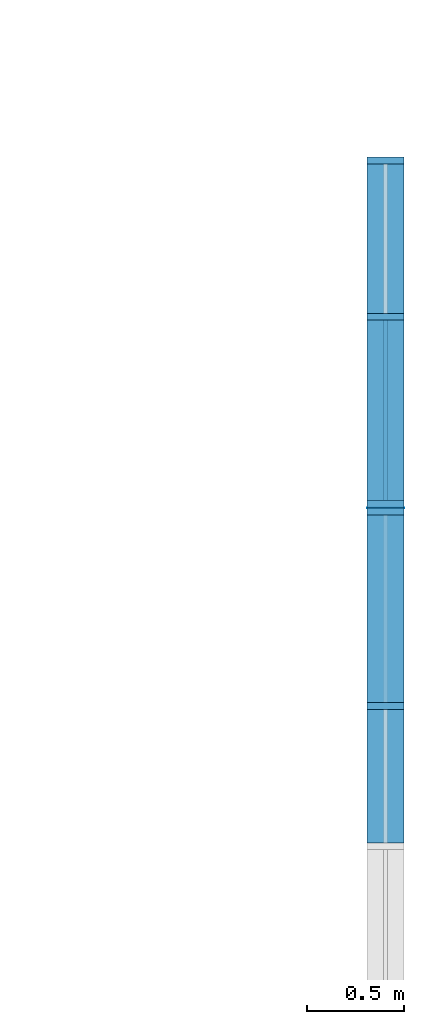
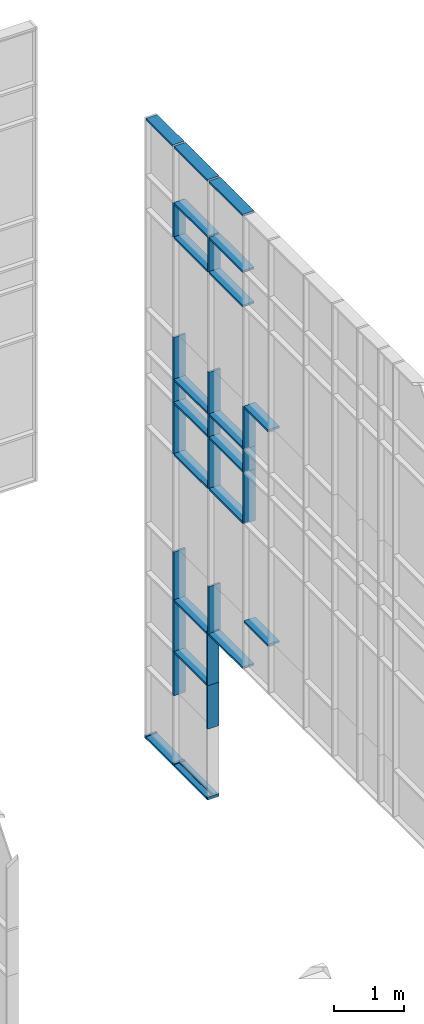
# One storey, part 17 of 73: 42 members, 1 element without a shape of its own.
"""IFC2X3 building model written with IfcOpenShell, lengths in millimetres."""

from ifc_helpers import new_model, entity, si_unit, converted_unit, derived_unit, direction, frame, origin, origin_2d_with_axis, place, context, subcontext, project, spatial, rectangle, extrude, source, transform, mapped, material, type_object, type_shapes, element, aggregate, save


model = new_model("IFC2X3")

# Units and contexts
model_context = context("Model", 3, precision=0.01, world=origin(), true_north=direction((6.12303176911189e-17, 1.0)))
body_context = subcontext(model_context, "Body", "Model", "MODEL_VIEW")
ifc_project = project(units=[si_unit("LENGTHUNIT", "METRE", prefix="MILLI"), si_unit("AREAUNIT", "SQUARE_METRE"), si_unit("VOLUMEUNIT", "CUBIC_METRE"), converted_unit("PLANEANGLEUNIT", "DEGREE", entity("IfcRatioMeasure", 0.0174532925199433), si_unit("PLANEANGLEUNIT", "RADIAN"), dimensions=[0, 0, 0, 0, 0, 0, 0]), si_unit("MASSUNIT", "GRAM", prefix="KILO"), derived_unit("MASSDENSITYUNIT", [(si_unit("MASSUNIT", "GRAM", prefix="KILO"), 1), (si_unit("LENGTHUNIT", "METRE"), -3)]), si_unit("TIMEUNIT", "SECOND"), si_unit("FREQUENCYUNIT", "HERTZ"), si_unit("THERMODYNAMICTEMPERATUREUNIT", "DEGREE_CELSIUS"), derived_unit("THERMALTRANSMITTANCEUNIT", [(si_unit("MASSUNIT", "GRAM", prefix="KILO"), 1), (si_unit("THERMODYNAMICTEMPERATUREUNIT", "KELVIN"), -1), (si_unit("TIMEUNIT", "SECOND"), -3)]), derived_unit("VOLUMETRICFLOWRATEUNIT", [(si_unit("LENGTHUNIT", "METRE"), 3), (si_unit("TIMEUNIT", "SECOND"), -1)]), si_unit("ELECTRICCURRENTUNIT", "AMPERE"), si_unit("ELECTRICVOLTAGEUNIT", "VOLT"), si_unit("POWERUNIT", "WATT"), si_unit("FORCEUNIT", "NEWTON", prefix="KILO"), si_unit("ILLUMINANCEUNIT", "LUX"), si_unit("LUMINOUSFLUXUNIT", "LUMEN"), si_unit("LUMINOUSINTENSITYUNIT", "CANDELA"), derived_unit("USERDEFINED", [(si_unit("MASSUNIT", "GRAM", prefix="KILO"), -1), (si_unit("LENGTHUNIT", "METRE"), -2), (si_unit("TIMEUNIT", "SECOND"), 3), (si_unit("LUMINOUSFLUXUNIT", "LUMEN"), 1)]), derived_unit("LINEARVELOCITYUNIT", [(si_unit("LENGTHUNIT", "METRE"), 1), (si_unit("TIMEUNIT", "SECOND"), -1)]), si_unit("PRESSUREUNIT", "PASCAL"), derived_unit("USERDEFINED", [(si_unit("LENGTHUNIT", "METRE"), -2), (si_unit("MASSUNIT", "GRAM", prefix="KILO"), 1), (si_unit("TIMEUNIT", "SECOND"), -2)])], contexts=[model_context])

# Site, building, storey
site_placement = place(None, frame((-151.875543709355, 2715.0, 0.0)))
site = spatial("IfcSite", under=ifc_project, at=site_placement, Name="Surface", CompositionType="ELEMENT")
building_placement = place(site_placement, origin())
building = spatial("IfcBuilding", under=site, at=building_placement, CompositionType="ELEMENT")
storey_placement = place(building_placement, frame((0.0, 0.0, 6730.43000000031)))
storey = spatial("IfcBuildingStorey", under=building, at=storey_placement, Name="3 korrus", CompositionType="ELEMENT", Elevation=6730.43000000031)

# Curtain wall, members
curtain_wall_type = type_object("IfcCurtainWallType", Name="Curtain Wall:Klaasfassaad", PredefinedType="NOTDEFINED")
curtain_wall_placement = place(storey_placement, frame((0.0, 0.0, -6730.43000000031)))
curtain_wall = element("IfcCurtainWall", 1, at=curtain_wall_placement, inside=storey, type_object=curtain_wall_type, Name="Curtain Wall:Klaasfassaad", ObjectType="Curtain Wall:Klaasfassaad")
ifc_material_1 = material(Name="Steel/Aluminium")
member_type_1 = type_object("IfcMemberType", Name="35 x 190mm", PredefinedType="MEMBER")
shared_shape_1 = source(origin(), body_context, "Body", "SweptSolid", [
    extrude(rectangle(XDim=190.0, YDim=35.0, at=origin_2d_with_axis()), frame((-17.5, 0.0, -767.50000000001), z_axis=(0.0, 0.0, 1.0), x_axis=(0.0, -1.0, 0.0)), (0.0, 0.0, 1.0), 767.500000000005),
])
type_shapes(member_type_1, [shared_shape_1])
member_1_placement = place(storey_placement, frame((38701.6162681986, 23775.5004565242, 5074.47692901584), z_axis=(0.0, 1.0, 0.0), x_axis=(0.0, 0.0, 1.0)))
member_1 = element("IfcMember", 2, at=member_1_placement, type_object=member_type_1, material=ifc_material_1, Name="Rectangular Mullion:35 x 190mm", ObjectType="35 x 190mm", context=body_context, shape_type="MappedRepresentation", body=[
    mapped(shared_shape_1, transform((0.0, 0.0, 0.0), scale=1.0)),
])
member_type_2 = type_object("IfcMemberType", Name="35 x 190mm", PredefinedType="MEMBER")
shared_shape_2 = source(origin(), body_context, "Body", "SweptSolid", [
    extrude(rectangle(XDim=190.0, YDim=35.0, at=origin_2d_with_axis()), frame((-17.5, 0.0, -50.5722699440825), z_axis=(0.0, 0.0, 1.0), x_axis=(0.0, -1.0, 0.0)), (0.0, 0.0, 1.0), 50.5722699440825),
])
type_shapes(member_type_2, [shared_shape_2])
member_2_placement = place(storey_placement, frame((38701.6162681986, 23810.5004565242, -5751.00225525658), z_axis=(0.0, 0.0, -1.0), x_axis=(0.0, 1.0, 0.0)))
member_2 = element("IfcMember", 3, at=member_2_placement, type_object=member_type_2, material=ifc_material_1, Name="Rectangular Mullion:35 x 190mm", ObjectType="35 x 190mm", context=body_context, shape_type="MappedRepresentation", body=[
    mapped(shared_shape_2, transform((0.0, 0.0, 0.0), scale=1.0)),
])
member_type_3 = type_object("IfcMemberType", Name="35 x 190mm", PredefinedType="MEMBER")
shared_shape_3 = source(origin(), body_context, "Body", "SweptSolid", [
    extrude(rectangle(XDim=190.000000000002, YDim=35.0, at=origin_2d_with_axis()), frame((-17.5, 0.0, -927.500026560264), z_axis=(0.0, 0.0, 1.0), x_axis=(0.0, -1.0, 0.0)), (0.0, 0.0, 1.0), 927.500026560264),
])
type_shapes(member_type_3, [shared_shape_3])
member_3_placement = place(storey_placement, frame((38701.6162681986, 22045.5004299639, -5751.00225525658), z_axis=(0.0, -1.0, 0.0), x_axis=(0.0, 0.0, -1.0)))
member_3 = element("IfcMember", 4, at=member_3_placement, type_object=member_type_3, material=ifc_material_1, Name="Rectangular Mullion:35 x 190mm", ObjectType="35 x 190mm", context=body_context, shape_type="MappedRepresentation", body=[
    mapped(shared_shape_3, transform((0.0, 0.0, 0.0), scale=1.0)),
])
member_type_4 = type_object("IfcMemberType", Name="35 x 190mm", PredefinedType="MEMBER")
shared_shape_4 = source(origin(), body_context, "Body", "SweptSolid", [
    extrude(rectangle(XDim=190.0, YDim=35.0, at=origin_2d_with_axis()), frame((-17.5, 0.0, -935.0), z_axis=(0.0, 0.0, 1.0), x_axis=(0.0, -1.0, 0.0)), (0.0, 0.0, 1.0), 935.0),
])
type_shapes(member_type_4, [shared_shape_4])
member_4_placement = place(storey_placement, frame((38701.6162681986, 22010.5004299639, -2821.00226032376), z_axis=(0.0, 0.0, 1.0), x_axis=(0.0, -1.0, 0.0)))
member_4 = element("IfcMember", 5, at=member_4_placement, type_object=member_type_4, material=ifc_material_1, Name="Rectangular Mullion:35 x 190mm", ObjectType="35 x 190mm", context=body_context, shape_type="MappedRepresentation", body=[
    mapped(shared_shape_4, transform((0.0, 0.0, 0.0), scale=1.0)),
])
member_type_5 = type_object("IfcMemberType", Name="35 x 190mm", PredefinedType="MEMBER")
shared_shape_5 = source(origin(), body_context, "Body", "SweptSolid", [
    extrude(rectangle(XDim=190.0, YDim=35.0, at=origin_2d_with_axis()), frame((-17.5, 0.0, -965.0), z_axis=(0.0, 0.0, 1.0), x_axis=(0.0, -1.0, 0.0)), (0.0, 0.0, 1.0), 964.999999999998),
])
type_shapes(member_type_5, [shared_shape_5])
member_5_placement = place(storey_placement, frame((38701.6162681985, 21008.0004565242, -2856.00226032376), z_axis=(0.0, -1.0, 0.0), x_axis=(0.0, 0.0, -1.0)))
member_5 = element("IfcMember", 6, at=member_5_placement, type_object=member_type_5, material=ifc_material_1, Name="Rectangular Mullion:35 x 190mm", ObjectType="35 x 190mm", context=body_context, shape_type="MappedRepresentation", body=[
    mapped(shared_shape_5, transform((0.0, 0.0, 0.0), scale=1.0)),
])
member_type_6 = type_object("IfcMemberType", Name="35 x 190mm", PredefinedType="MEMBER")
shared_shape_6 = source(origin(), body_context, "Body", "SweptSolid", [
    extrude(rectangle(XDim=190.0, YDim=35.0, at=origin_2d_with_axis()), frame((-17.5, 0.0, -965.0), z_axis=(0.0, 0.0, 1.0), x_axis=(0.0, -1.0, 0.0)), (0.0, 0.0, 1.0), 964.999999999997),
])
type_shapes(member_type_6, [shared_shape_6])
member_6_placement = place(storey_placement, frame((38701.6162681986, 21973.0004565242, 5074.47692901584), z_axis=(0.0, 1.0, 0.0), x_axis=(0.0, 0.0, 1.0)))
member_6 = element("IfcMember", 7, at=member_6_placement, type_object=member_type_6, material=ifc_material_1, Name="Rectangular Mullion:35 x 190mm", ObjectType="35 x 190mm", context=body_context, shape_type="MappedRepresentation", body=[
    mapped(shared_shape_6, transform((0.0, 0.0, 0.0), scale=1.0)),
])
member_7_placement = place(storey_placement, frame((38701.6162681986, 22973.0004565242, 5074.47692901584), z_axis=(0.0, 1.0, 0.0), x_axis=(0.0, 0.0, 1.0)))
member_7 = element("IfcMember", 8, at=member_7_placement, type_object=member_type_6, material=ifc_material_1, Name="Rectangular Mullion:35 x 190mm", ObjectType="35 x 190mm", context=body_context, shape_type="MappedRepresentation", body=[
    mapped(shared_shape_6, transform((0.0, 0.0, 0.0), scale=1.0)),
])
member_type_7 = type_object("IfcMemberType", Name="35 x 190mm", PredefinedType="MEMBER")
shared_shape_7 = source(origin(), body_context, "Body", "SweptSolid", [
    extrude(rectangle(XDim=190.0, YDim=35.0, at=origin_2d_with_axis()), frame((-17.5, 0.0, -2.49997343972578), z_axis=(0.0, 0.0, 1.0), x_axis=(0.0, -1.0, 0.0)), (0.0, 0.0, 1.0), 2.49997343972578),
])
type_shapes(member_type_7, [shared_shape_7])
member_8_placement = place(storey_placement, frame((38701.6162681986, 22008.0004565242, -2856.00226032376), z_axis=(0.0, -1.0, 0.0), x_axis=(0.0, 0.0, -1.0)))
member_8 = element("IfcMember", 9, at=member_8_placement, type_object=member_type_7, material=ifc_material_1, Name="Rectangular Mullion:35 x 190mm", ObjectType="35 x 190mm", context=body_context, shape_type="MappedRepresentation", body=[
    mapped(shared_shape_7, transform((0.0, 0.0, 0.0), scale=1.0)),
])
member_type_8 = type_object("IfcMemberType", Name="35 x 190mm", PredefinedType="MEMBER")
shared_shape_8 = source(origin(), body_context, "Body", "SweptSolid", [
    extrude(rectangle(XDim=190.0, YDim=35.0, at=origin_2d_with_axis()), frame((-17.5, 0.0, -767.500000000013), z_axis=(0.0, 0.0, 1.0), x_axis=(0.0, -1.0, 0.0)), (0.0, 0.0, 1.0), 767.500000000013),
])
type_shapes(member_type_8, [shared_shape_8])
member_9_placement = place(storey_placement, frame((38701.6162681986, 23008.0004565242, -5751.00225525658), z_axis=(0.0, -1.0, 0.0), x_axis=(0.0, 0.0, -1.0)))
member_9 = element("IfcMember", 10, at=member_9_placement, type_object=member_type_8, material=ifc_material_1, Name="Rectangular Mullion:35 x 190mm", ObjectType="35 x 190mm", context=body_context, shape_type="MappedRepresentation", body=[
    mapped(shared_shape_8, transform((0.0, 0.0, 0.0), scale=1.0)),
])
member_type_9 = type_object("IfcMemberType", Name="35 x 190mm", PredefinedType="MEMBER")
shared_shape_9 = source(origin(), body_context, "Body", "SweptSolid", [
    extrude(rectangle(XDim=190.0, YDim=35.0, at=origin_2d_with_axis()), frame((-17.5, 0.0, -760.0), z_axis=(0.0, 0.0, 1.0), x_axis=(0.0, -1.0, 0.0)), (0.0, 0.0, 1.0), 760.0),
])
type_shapes(member_type_9, [shared_shape_9])
member_10_placement = place(storey_placement, frame((38701.6162681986, 22010.5004299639, -3756.00226032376), z_axis=(0.0, 0.0, 1.0), x_axis=(0.0, -1.0, 0.0)))
member_10 = element("IfcMember", 11, at=member_10_placement, type_object=member_type_9, material=ifc_material_1, Name="Rectangular Mullion:35 x 190mm", ObjectType="35 x 190mm", context=body_context, shape_type="MappedRepresentation", body=[
    mapped(shared_shape_9, transform((0.0, 0.0, 0.0), scale=1.0)),
])
member_type_10 = type_object("IfcMemberType", Name="35 x 190mm", PredefinedType="MEMBER")
shared_shape_10 = source(origin(), body_context, "Body", "SweptSolid", [
    extrude(rectangle(XDim=190.0, YDim=35.0, at=origin_2d_with_axis()), frame((0.0, 0.0, -850.159729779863), z_axis=(0.0, 0.0, 1.0), x_axis=(0.0, -1.0, 0.0)), (0.0, 0.0, 1.0), 850.159729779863),
])
type_shapes(member_type_10, [shared_shape_10])
member_11_placement = place(storey_placement, frame((38701.6162681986, 21990.5004565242, -2856.00226032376), z_axis=(0.0, 0.0, -1.0), x_axis=(0.0, 1.0, 0.0)))
member_11 = element("IfcMember", 12, at=member_11_placement, type_object=member_type_10, material=ifc_material_1, Name="Rectangular Mullion:35 x 190mm", ObjectType="35 x 190mm", context=body_context, shape_type="MappedRepresentation", body=[
    mapped(shared_shape_10, transform((0.0, 0.0, 0.0), scale=1.0)),
])
member_type_11 = type_object("IfcMemberType", Name="35 x 190mm", PredefinedType="MEMBER")
shared_shape_11 = source(origin(), body_context, "Body", "SweptSolid", [
    extrude(rectangle(XDim=190.0, YDim=35.0, at=origin_2d_with_axis()), frame((0.0, 0.0, -50.5722699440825), z_axis=(0.0, 0.0, 1.0), x_axis=(0.0, -1.0, 0.0)), (0.0, 0.0, 1.0), 50.5722699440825),
])
type_shapes(member_type_11, [shared_shape_11])
member_12_placement = place(storey_placement, frame((38701.6162681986, 22990.5004565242, -5751.00225525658), z_axis=(0.0, 0.0, -1.0), x_axis=(0.0, 1.0, 0.0)))
member_12 = element("IfcMember", 13, at=member_12_placement, type_object=member_type_11, material=ifc_material_1, Name="Rectangular Mullion:35 x 190mm", ObjectType="35 x 190mm", context=body_context, shape_type="MappedRepresentation", body=[
    mapped(shared_shape_11, transform((0.0, 0.0, 0.0), scale=1.0)),
])
member_type_12 = type_object("IfcMemberType", Name="35 x 190mm", PredefinedType="MEMBER")
shared_shape_12 = source(origin(), body_context, "Body", "SweptSolid", [
    extrude(rectangle(XDim=190.0, YDim=35.0, at=origin_2d_with_axis()), frame((0.0, 0.0, -965.0), z_axis=(0.0, 0.0, 1.0), x_axis=(0.0, -1.0, 0.0)), (0.0, 0.0, 1.0), 964.999999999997),
])
type_shapes(member_type_12, [shared_shape_12])
member_13_placement = place(storey_placement, frame((38701.6162681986, 21973.0004565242, 4074.47692901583), z_axis=(0.0, 1.0, 0.0), x_axis=(0.0, 0.0, 1.0)))
member_13 = element("IfcMember", 14, at=member_13_placement, type_object=member_type_12, material=ifc_material_1, Name="Rectangular Mullion:35 x 190mm", ObjectType="35 x 190mm", context=body_context, shape_type="MappedRepresentation", body=[
    mapped(shared_shape_12, transform((0.0, 0.0, 0.0), scale=1.0)),
])
member_14_placement = place(storey_placement, frame((38701.6162681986, 22973.0004565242, 4074.47692901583), z_axis=(0.0, 1.0, 0.0), x_axis=(0.0, 0.0, 1.0)))
member_14 = element("IfcMember", 15, at=member_14_placement, type_object=member_type_12, material=ifc_material_1, Name="Rectangular Mullion:35 x 190mm", ObjectType="35 x 190mm", context=body_context, shape_type="MappedRepresentation", body=[
    mapped(shared_shape_12, transform((0.0, 0.0, 0.0), scale=1.0)),
])
member_type_13 = type_object("IfcMemberType", Name="35 x 190mm", PredefinedType="MEMBER")
shared_shape_13 = source(origin(), body_context, "Body", "SweptSolid", [
    extrude(rectangle(XDim=190.0, YDim=35.0, at=origin_2d_with_axis()), frame((0.0, 0.0, -965.0), z_axis=(0.0, 0.0, 1.0), x_axis=(0.0, -1.0, 0.0)), (0.0, 0.0, 1.0), 964.999999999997),
])
type_shapes(member_type_13, [shared_shape_13])
member_15_placement = place(storey_placement, frame((38701.6162681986, 21973.0004565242, 3474.47692901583), z_axis=(0.0, 1.0, 0.0), x_axis=(0.0, 0.0, 1.0)))
member_15 = element("IfcMember", 16, at=member_15_placement, type_object=member_type_13, material=ifc_material_1, Name="Rectangular Mullion:35 x 190mm", ObjectType="35 x 190mm", context=body_context, shape_type="MappedRepresentation", body=[
    mapped(shared_shape_13, transform((0.0, 0.0, 0.0), scale=1.0)),
])
member_16_placement = place(storey_placement, frame((38701.6162681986, 22973.0004565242, 3474.47692901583), z_axis=(0.0, 1.0, 0.0), x_axis=(0.0, 0.0, 1.0)))
member_16 = element("IfcMember", 17, at=member_16_placement, type_object=member_type_13, material=ifc_material_1, Name="Rectangular Mullion:35 x 190mm", ObjectType="35 x 190mm", context=body_context, shape_type="MappedRepresentation", body=[
    mapped(shared_shape_13, transform((0.0, 0.0, 0.0), scale=1.0)),
])
member_type_14 = type_object("IfcMemberType", Name="35 x 190mm", PredefinedType="MEMBER")
shared_shape_14 = source(origin(), body_context, "Body", "SweptSolid", [
    extrude(rectangle(XDim=190.0, YDim=35.0, at=origin_2d_with_axis()), frame((0.0, 0.0, -965.0), z_axis=(0.0, 0.0, 1.0), x_axis=(0.0, -1.0, 0.0)), (0.0, 0.0, 1.0), 964.999999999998),
])
type_shapes(member_type_14, [shared_shape_14])
member_17_placement = place(storey_placement, frame((38701.6162681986, 21973.0004565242, 994.476929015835), z_axis=(0.0, 1.0, 0.0), x_axis=(0.0, 0.0, 1.0)))
member_17 = element("IfcMember", 18, at=member_17_placement, type_object=member_type_14, material=ifc_material_1, Name="Rectangular Mullion:35 x 190mm", ObjectType="35 x 190mm", context=body_context, shape_type="MappedRepresentation", body=[
    mapped(shared_shape_14, transform((0.0, 0.0, 0.0), scale=1.0)),
])
member_18_placement = place(storey_placement, frame((38701.6162681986, 22973.0004565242, 994.476929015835), z_axis=(0.0, 1.0, 0.0), x_axis=(0.0, 0.0, 1.0)))
member_18 = element("IfcMember", 19, at=member_18_placement, type_object=member_type_14, material=ifc_material_1, Name="Rectangular Mullion:35 x 190mm", ObjectType="35 x 190mm", context=body_context, shape_type="MappedRepresentation", body=[
    mapped(shared_shape_14, transform((0.0, 0.0, 0.0), scale=1.0)),
])
member_type_15 = type_object("IfcMemberType", Name="35 x 190mm", PredefinedType="MEMBER")
shared_shape_15 = source(origin(), body_context, "Body", "SweptSolid", [
    extrude(rectangle(XDim=190.0, YDim=35.0, at=origin_2d_with_axis()), frame((0.0, 0.0, -965.0), z_axis=(0.0, 0.0, 1.0), x_axis=(0.0, -1.0, 0.0)), (0.0, 0.0, 1.0), 964.999999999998),
])
type_shapes(member_type_15, [shared_shape_15])
member_19_placement = place(storey_placement, frame((38701.6162681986, 21973.0004565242, 594.476929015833), z_axis=(0.0, 1.0, 0.0), x_axis=(0.0, 0.0, 1.0)))
member_19 = element("IfcMember", 20, at=member_19_placement, type_object=member_type_15, material=ifc_material_1, Name="Rectangular Mullion:35 x 190mm", ObjectType="35 x 190mm", context=body_context, shape_type="MappedRepresentation", body=[
    mapped(shared_shape_15, transform((0.0, 0.0, 0.0), scale=1.0)),
])
member_20_placement = place(storey_placement, frame((38701.6162681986, 22973.0004565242, 594.476929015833), z_axis=(0.0, 1.0, 0.0), x_axis=(0.0, 0.0, 1.0)))
member_20 = element("IfcMember", 21, at=member_20_placement, type_object=member_type_15, material=ifc_material_1, Name="Rectangular Mullion:35 x 190mm", ObjectType="35 x 190mm", context=body_context, shape_type="MappedRepresentation", body=[
    mapped(shared_shape_15, transform((0.0, 0.0, 0.0), scale=1.0)),
])
member_type_16 = type_object("IfcMemberType", Name="35 x 190mm", PredefinedType="MEMBER")
shared_shape_16 = source(origin(), body_context, "Body", "SweptSolid", [
    extrude(rectangle(XDim=190.0, YDim=35.0, at=origin_2d_with_axis()), frame((0.0, 0.0, -965.0), z_axis=(0.0, 0.0, 1.0), x_axis=(0.0, -1.0, 0.0)), (0.0, 0.0, 1.0), 964.999999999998),
])
type_shapes(member_type_16, [shared_shape_16])
member_21_placement = place(storey_placement, frame((38701.6162681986, 21973.0004565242, -305.523070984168), z_axis=(0.0, 1.0, 0.0), x_axis=(0.0, 0.0, 1.0)))
member_21 = element("IfcMember", 22, at=member_21_placement, type_object=member_type_16, material=ifc_material_1, Name="Rectangular Mullion:35 x 190mm", ObjectType="35 x 190mm", context=body_context, shape_type="MappedRepresentation", body=[
    mapped(shared_shape_16, transform((0.0, 0.0, 0.0), scale=1.0)),
])
member_22_placement = place(storey_placement, frame((38701.6162681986, 22973.0004565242, -305.523070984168), z_axis=(0.0, 1.0, 0.0), x_axis=(0.0, 0.0, 1.0)))
member_22 = element("IfcMember", 23, at=member_22_placement, type_object=member_type_16, material=ifc_material_1, Name="Rectangular Mullion:35 x 190mm", ObjectType="35 x 190mm", context=body_context, shape_type="MappedRepresentation", body=[
    mapped(shared_shape_16, transform((0.0, 0.0, 0.0), scale=1.0)),
])
member_type_17 = type_object("IfcMemberType", Name="35 x 190mm", PredefinedType="MEMBER")
shared_shape_17 = source(origin(), body_context, "Body", "SweptSolid", [
    extrude(rectangle(XDim=190.0, YDim=35.0, at=origin_2d_with_axis()), frame((0.0, 0.0, -927.500026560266), z_axis=(0.0, 0.0, 1.0), x_axis=(0.0, -1.0, 0.0)), (0.0, 0.0, 1.0), 927.500026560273),
])
type_shapes(member_type_17, [shared_shape_17])
member_23_placement = place(storey_placement, frame((38701.6162681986, 22973.0004565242, -2856.00226032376), z_axis=(0.0, 1.0, 0.0), x_axis=(0.0, 0.0, 1.0)))
member_23 = element("IfcMember", 24, at=member_23_placement, type_object=member_type_17, material=ifc_material_1, Name="Rectangular Mullion:35 x 190mm", ObjectType="35 x 190mm", context=body_context, shape_type="MappedRepresentation", body=[
    mapped(shared_shape_17, transform((0.0, 0.0, 0.0), scale=1.0)),
])
member_type_18 = type_object("IfcMemberType", Name="35 x 190mm", PredefinedType="MEMBER")
shared_shape_18 = source(origin(), body_context, "Body", "SweptSolid", [
    extrude(rectangle(XDim=190.0, YDim=35.0, at=origin_2d_with_axis()), frame((0.0, 0.0, -927.500026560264), z_axis=(0.0, 0.0, 1.0), x_axis=(0.0, -1.0, 0.0)), (0.0, 0.0, 1.0), 927.500026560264),
])
type_shapes(member_type_18, [shared_shape_18])
member_24_placement = place(storey_placement, frame((38701.6162681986, 22973.0004565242, -3756.00226032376), z_axis=(0.0, 1.0, 0.0), x_axis=(0.0, 0.0, 1.0)))
member_24 = element("IfcMember", 25, at=member_24_placement, type_object=member_type_18, material=ifc_material_1, Name="Rectangular Mullion:35 x 190mm", ObjectType="35 x 190mm", context=body_context, shape_type="MappedRepresentation", body=[
    mapped(shared_shape_18, transform((0.0, 0.0, 0.0), scale=1.0)),
])
member_type_19 = type_object("IfcMemberType", Name="35 x 190mm", PredefinedType="MEMBER")
shared_shape_19 = source(origin(), body_context, "Body", "SweptSolid", [
    extrude(rectangle(XDim=190.0, YDim=35.0, at=origin_2d_with_axis()), frame((0.0, 0.0, -600.0), z_axis=(0.0, 0.0, 1.0), x_axis=(0.0, -1.0, 0.0)), (0.0, 0.0, 1.0), 599.999999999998),
])
type_shapes(member_type_19, [shared_shape_19])
member_25_placement = place(storey_placement, frame((38701.6162681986, 21990.5004565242, 3474.47692901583), z_axis=(0.0, 0.0, -1.0), x_axis=(0.0, 1.0, 0.0)))
member_25 = element("IfcMember", 26, at=member_25_placement, type_object=member_type_19, material=ifc_material_1, Name="Rectangular Mullion:35 x 190mm", ObjectType="35 x 190mm", context=body_context, shape_type="MappedRepresentation", body=[
    mapped(shared_shape_19, transform((0.0, 0.0, 0.0), scale=1.0)),
])
member_26_placement = place(storey_placement, frame((38701.6162681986, 22990.5004565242, 3474.47692901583), z_axis=(0.0, 0.0, -1.0), x_axis=(0.0, 1.0, 0.0)))
member_26 = element("IfcMember", 27, at=member_26_placement, type_object=member_type_19, material=ifc_material_1, Name="Rectangular Mullion:35 x 190mm", ObjectType="35 x 190mm", context=body_context, shape_type="MappedRepresentation", body=[
    mapped(shared_shape_19, transform((0.0, 0.0, 0.0), scale=1.0)),
])
member_type_20 = type_object("IfcMemberType", Name="35 x 190mm", PredefinedType="MEMBER")
shared_shape_20 = source(origin(), body_context, "Body", "SweptSolid", [
    extrude(rectangle(XDim=190.0, YDim=35.0, at=origin_2d_with_axis()), frame((0.0, 0.0, -740.0), z_axis=(0.0, 0.0, 1.0), x_axis=(0.0, -1.0, 0.0)), (0.0, 0.0, 1.0), 740.000000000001),
])
type_shapes(member_type_20, [shared_shape_20])
member_27_placement = place(storey_placement, frame((38701.6162681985, 20990.5004565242, 994.476929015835), z_axis=(0.0, 0.0, -1.0), x_axis=(0.0, 1.0, 0.0)))
member_27 = element("IfcMember", 28, at=member_27_placement, type_object=member_type_20, material=ifc_material_1, Name="Rectangular Mullion:35 x 190mm", ObjectType="35 x 190mm", context=body_context, shape_type="MappedRepresentation", body=[
    mapped(shared_shape_20, transform((0.0, 0.0, 0.0), scale=1.0)),
])
member_28_placement = place(storey_placement, frame((38701.6162681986, 22990.5004565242, 994.476929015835), z_axis=(0.0, 0.0, -1.0), x_axis=(0.0, 1.0, 0.0)))
member_28 = element("IfcMember", 29, at=member_28_placement, type_object=member_type_20, material=ifc_material_1, Name="Rectangular Mullion:35 x 190mm", ObjectType="35 x 190mm", context=body_context, shape_type="MappedRepresentation", body=[
    mapped(shared_shape_20, transform((0.0, 0.0, 0.0), scale=1.0)),
])
member_type_21 = type_object("IfcMemberType", Name="35 x 190mm", PredefinedType="MEMBER")
shared_shape_21 = source(origin(), body_context, "Body", "SweptSolid", [
    extrude(rectangle(XDim=190.0, YDim=35.0, at=origin_2d_with_axis()), frame((0.0, 0.0, -400.0), z_axis=(0.0, 0.0, 1.0), x_axis=(0.0, -1.0, 0.0)), (0.0, 0.0, 1.0), 400.0),
])
type_shapes(member_type_21, [shared_shape_21])
member_29_placement = place(storey_placement, frame((38701.6162681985, 20990.5004565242, 594.476929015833), z_axis=(0.0, 0.0, -1.0), x_axis=(0.0, 1.0, 0.0)))
member_29 = element("IfcMember", 30, at=member_29_placement, type_object=member_type_21, material=ifc_material_1, Name="Rectangular Mullion:35 x 190mm", ObjectType="35 x 190mm", context=body_context, shape_type="MappedRepresentation", body=[
    mapped(shared_shape_21, transform((0.0, 0.0, 0.0), scale=1.0)),
])
member_30_placement = place(storey_placement, frame((38701.6162681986, 21990.5004565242, 594.476929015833), z_axis=(0.0, 0.0, -1.0), x_axis=(0.0, 1.0, 0.0)))
member_30 = element("IfcMember", 31, at=member_30_placement, type_object=member_type_21, material=ifc_material_1, Name="Rectangular Mullion:35 x 190mm", ObjectType="35 x 190mm", context=body_context, shape_type="MappedRepresentation", body=[
    mapped(shared_shape_21, transform((0.0, 0.0, 0.0), scale=1.0)),
])
member_31_placement = place(storey_placement, frame((38701.6162681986, 22990.5004565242, 594.476929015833), z_axis=(0.0, 0.0, -1.0), x_axis=(0.0, 1.0, 0.0)))
member_31 = element("IfcMember", 32, at=member_31_placement, type_object=member_type_21, material=ifc_material_1, Name="Rectangular Mullion:35 x 190mm", ObjectType="35 x 190mm", context=body_context, shape_type="MappedRepresentation", body=[
    mapped(shared_shape_21, transform((0.0, 0.0, 0.0), scale=1.0)),
])
member_type_22 = type_object("IfcMemberType", Name="35 x 190mm", PredefinedType="MEMBER")
shared_shape_22 = source(origin(), body_context, "Body", "SweptSolid", [
    extrude(rectangle(XDim=190.0, YDim=35.0, at=origin_2d_with_axis()), frame((0.0, 0.0, -900.0), z_axis=(0.0, 0.0, 1.0), x_axis=(0.0, -1.0, 0.0)), (0.0, 0.0, 1.0), 900.000000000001),
])
type_shapes(member_type_22, [shared_shape_22])
member_32_placement = place(storey_placement, frame((38701.6162681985, 20990.5004565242, -305.523070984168), z_axis=(0.0, 0.0, -1.0), x_axis=(0.0, 1.0, 0.0)))
member_32 = element("IfcMember", 33, at=member_32_placement, type_object=member_type_22, material=ifc_material_1, Name="Rectangular Mullion:35 x 190mm", ObjectType="35 x 190mm", context=body_context, shape_type="MappedRepresentation", body=[
    mapped(shared_shape_22, transform((0.0, 0.0, 0.0), scale=1.0)),
])
member_33_placement = place(storey_placement, frame((38701.6162681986, 21990.5004565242, -305.523070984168), z_axis=(0.0, 0.0, -1.0), x_axis=(0.0, 1.0, 0.0)))
member_33 = element("IfcMember", 34, at=member_33_placement, type_object=member_type_22, material=ifc_material_1, Name="Rectangular Mullion:35 x 190mm", ObjectType="35 x 190mm", context=body_context, shape_type="MappedRepresentation", body=[
    mapped(shared_shape_22, transform((0.0, 0.0, 0.0), scale=1.0)),
])
member_34_placement = place(storey_placement, frame((38701.6162681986, 22990.5004565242, -305.523070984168), z_axis=(0.0, 0.0, -1.0), x_axis=(0.0, 1.0, 0.0)))
member_34 = element("IfcMember", 35, at=member_34_placement, type_object=member_type_22, material=ifc_material_1, Name="Rectangular Mullion:35 x 190mm", ObjectType="35 x 190mm", context=body_context, shape_type="MappedRepresentation", body=[
    mapped(shared_shape_22, transform((0.0, 0.0, 0.0), scale=1.0)),
])
member_35_placement = place(storey_placement, frame((38701.6162681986, 22990.5004565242, -3756.00226032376), z_axis=(0.0, 0.0, -1.0), x_axis=(0.0, 1.0, 0.0)))
member_35 = element("IfcMember", 36, at=member_35_placement, type_object=member_type_22, material=ifc_material_1, Name="Rectangular Mullion:35 x 190mm", ObjectType="35 x 190mm", context=body_context, shape_type="MappedRepresentation", body=[
    mapped(shared_shape_22, transform((0.0, 0.0, 0.0), scale=1.0)),
])
member_type_23 = type_object("IfcMemberType", Name="35 x 190mm", PredefinedType="MEMBER")
shared_shape_23 = source(origin(), body_context, "Body", "SweptSolid", [
    extrude(rectangle(XDim=190.0, YDim=35.0, at=origin_2d_with_axis()), frame((0.0, 0.0, -740.0), z_axis=(0.0, 0.0, 1.0), x_axis=(0.0, -1.0, 0.0)), (0.0, 0.0, 1.0), 740.000000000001),
])
type_shapes(member_type_23, [shared_shape_23])
member_36_placement = place(storey_placement, frame((38701.6162681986, 21990.5004565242, 994.476929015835), z_axis=(0.0, 0.0, -1.0), x_axis=(0.0, 1.0, 0.0)))
member_36 = element("IfcMember", 37, at=member_36_placement, type_object=member_type_23, material=ifc_material_1, Name="Rectangular Mullion:35 x 190mm", ObjectType="35 x 190mm", context=body_context, shape_type="MappedRepresentation", body=[
    mapped(shared_shape_23, transform((0.0, 0.0, 0.0), scale=1.0)),
])
member_type_24 = type_object("IfcMemberType", Name="35 x 190mm", PredefinedType="MEMBER")
shared_shape_24 = source(origin(), body_context, "Body", "SweptSolid", [
    extrude(rectangle(XDim=190.0, YDim=35.0, at=origin_2d_with_axis()), frame((0.0, 0.0, -850.159729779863), z_axis=(0.0, 0.0, 1.0), x_axis=(0.0, -1.0, 0.0)), (0.0, 0.0, 1.0), 850.159729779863),
])
type_shapes(member_type_24, [shared_shape_24])
member_37_placement = place(storey_placement, frame((38701.6162681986, 22990.5004565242, -2856.00226032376), z_axis=(0.0, 0.0, -1.0), x_axis=(0.0, 1.0, 0.0)))
member_37 = element("IfcMember", 38, at=member_37_placement, type_object=member_type_24, material=ifc_material_1, Name="Rectangular Mullion:35 x 190mm", ObjectType="35 x 190mm", context=body_context, shape_type="MappedRepresentation", body=[
    mapped(shared_shape_24, transform((0.0, 0.0, 0.0), scale=1.0)),
])
member_type_25 = type_object("IfcMemberType", Name="35 x 190mm", PredefinedType="MEMBER")
shared_shape_25 = source(origin(), body_context, "Body", "SweptSolid", [
    extrude(rectangle(XDim=190.0, YDim=35.0, at=origin_2d_with_axis()), frame((0.0, 0.0, -760.0), z_axis=(0.0, 0.0, 1.0), x_axis=(0.0, -1.0, 0.0)), (0.0, 0.0, 1.0), 760.0),
])
type_shapes(member_type_25, [shared_shape_25])
member_38_placement = place(storey_placement, frame((38701.6162681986, 22990.5004565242, -4516.00226032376), z_axis=(0.0, 0.0, -1.0), x_axis=(0.0, 1.0, 0.0)))
member_38 = element("IfcMember", 39, at=member_38_placement, type_object=member_type_25, material=ifc_material_1, Name="Rectangular Mullion:35 x 190mm", ObjectType="35 x 190mm", context=body_context, shape_type="MappedRepresentation", body=[
    mapped(shared_shape_25, transform((0.0, 0.0, 0.0), scale=1.0)),
])
member_type_26 = type_object("IfcMemberType", Name="35 x 190mm", PredefinedType="MEMBER")
shared_shape_26 = source(origin(), body_context, "Body", "SweptSolid", [
    extrude(rectangle(XDim=190.0, YDim=35.0, at=origin_2d_with_axis()), frame((0.0, 0.0, -685.0), z_axis=(0.0, 0.0, 1.0), x_axis=(0.0, -1.0, 0.0)), (0.0, 0.0, 1.0), 684.999999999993),
])
type_shapes(member_type_26, [shared_shape_26])
member_39_placement = place(storey_placement, frame((38701.6162681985, 20973.0004565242, 1734.47692901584), z_axis=(0.0, 1.0, 0.0), x_axis=(0.0, 0.0, 1.0)))
member_39 = element("IfcMember", 40, at=member_39_placement, type_object=member_type_26, material=ifc_material_1, Name="Rectangular Mullion:35 x 190mm", ObjectType="35 x 190mm", context=body_context, shape_type="MappedRepresentation", body=[
    mapped(shared_shape_26, transform((0.0, 0.0, 0.0), scale=1.0)),
])
member_type_27 = type_object("IfcMemberType", Name="35 x 190mm", PredefinedType="MEMBER")
shared_shape_27 = source(origin(), body_context, "Body", "SweptSolid", [
    extrude(rectangle(XDim=190.0, YDim=35.0, at=origin_2d_with_axis()), frame((0.0, 0.0, -685.0), z_axis=(0.0, 0.0, 1.0), x_axis=(0.0, -1.0, 0.0)), (0.0, 0.0, 1.0), 684.999999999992),
])
type_shapes(member_type_27, [shared_shape_27])
member_40_placement = place(storey_placement, frame((38701.6162681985, 20973.0004565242, -2005.8425305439), z_axis=(0.0, 1.0, 0.0), x_axis=(0.0, 0.0, 1.0)))
member_40 = element("IfcMember", 41, at=member_40_placement, type_object=member_type_27, material=ifc_material_1, Name="Rectangular Mullion:35 x 190mm", ObjectType="35 x 190mm", context=body_context, shape_type="MappedRepresentation", body=[
    mapped(shared_shape_27, transform((0.0, 0.0, 0.0), scale=1.0)),
])
member_type_28 = type_object("IfcMemberType", Name="35 x 190mm", PredefinedType="MEMBER")
shared_shape_28 = source(origin(), body_context, "Body", "SweptSolid", [
    extrude(rectangle(XDim=190.0, YDim=35.0, at=origin_2d_with_axis()), frame((-17.5, 0.0, -50.5722699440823), z_axis=(0.0, 0.0, 1.0), x_axis=(0.0, -1.0, 0.0)), (0.0, 0.0, 1.0), 50.5722699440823),
])
type_shapes(member_type_28, [shared_shape_28])
member_41_placement = place(storey_placement, frame((38701.6162681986, 22010.5004299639, -5700.4299853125), z_axis=(0.0, 0.0, 1.0), x_axis=(0.0, -1.0, 0.0)))
member_41 = element("IfcMember", 42, at=member_41_placement, type_object=member_type_28, material=ifc_material_1, Name="Rectangular Mullion:35 x 190mm", ObjectType="35 x 190mm", context=body_context, shape_type="MappedRepresentation", body=[
    mapped(shared_shape_28, transform((0.0, 0.0, 0.0), scale=1.0)),
])
ifc_material_2 = material(Name="__Uks_hele tamm")
member_type_29 = type_object("IfcMemberType", Name="20 x 20mm", PredefinedType="MEMBER")
shared_shape_29 = source(origin(), body_context, "Body", "SweptSolid", [
    extrude(rectangle(XDim=20.0, YDim=20.0, at=origin_2d_with_axis()), frame((0.0, 0.0, -927.500026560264), z_axis=(0.0, 0.0, 1.0), x_axis=(0.0, -1.0, 0.0)), (0.0, 0.0, 1.0), 927.500026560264),
])
type_shapes(member_type_29, [shared_shape_29])
member_42_placement = place(storey_placement, frame((38701.6162681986, 22973.0004565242, -5700.4299853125), z_axis=(0.0, 1.0, 0.0), x_axis=(0.0, 0.0, 1.0)))
member_42 = element("IfcMember", 43, at=member_42_placement, type_object=member_type_29, material=ifc_material_2, Name="Rectangular Mullion:20 x 20mm", ObjectType="20 x 20mm", context=body_context, shape_type="MappedRepresentation", body=[
    mapped(shared_shape_29, transform((0.0, 0.0, 0.0), scale=1.0)),
])
aggregate(curtain_wall, [member_1, member_2, member_3, member_4, member_5, member_6, member_8, member_7, member_9, member_10, member_11, member_12, member_13, member_14, member_15, member_16, member_17, member_18, member_19, member_20, member_21, member_22, member_23, member_24, member_27, member_29, member_32, member_25, member_36, member_30, member_33, member_26, member_28, member_31, member_34, member_37, member_35, member_38, member_39, member_40, member_41, member_42])

save(model, "model.ifc")
